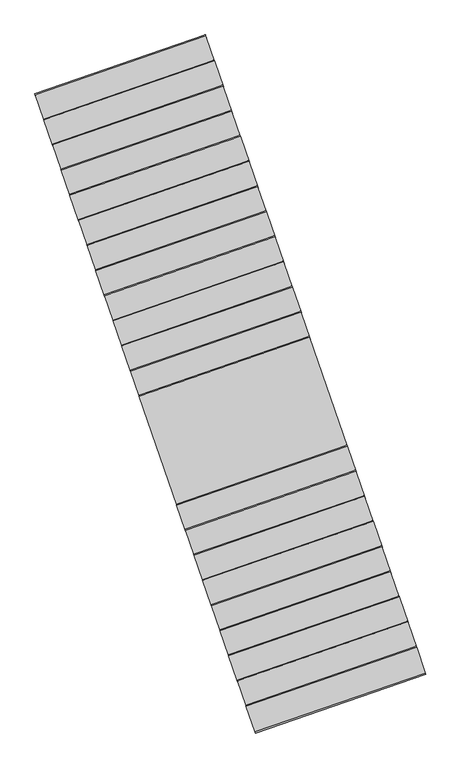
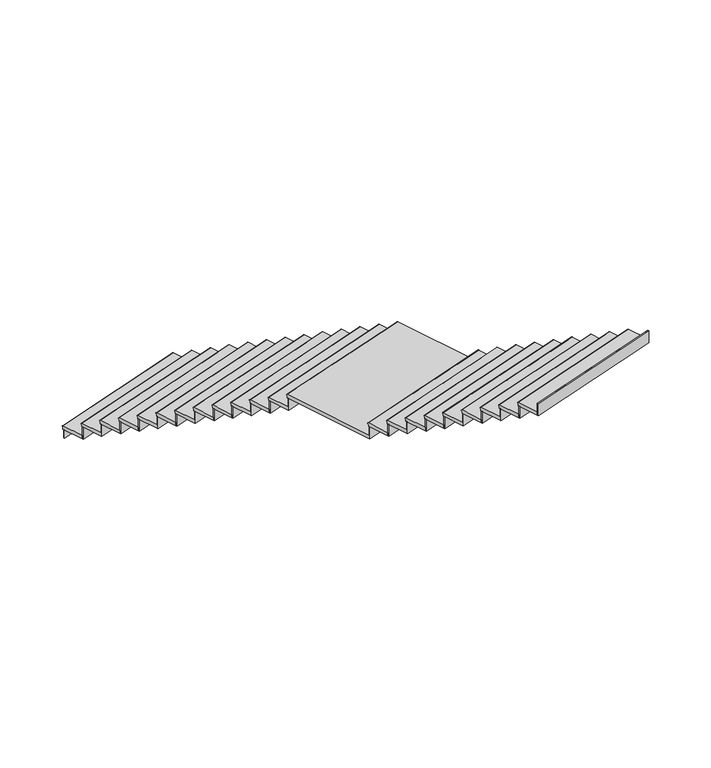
"""IFC4 building model written with IfcOpenShell, lengths in millimetres: stair flight geometry, Wood Steps with 50 mm Tread 20 mm Nosing 13 mm Riser."""

from ifc_helpers import new_model, si_unit, point, frame, frame_2d, origin, origin_with_axes, place, context, project, spatial, polyline, circle_curve, trimmed, segment, composite_curve, outline, extrude, source, transform, mapped, element, save


def stair_flight_a10bc733(model_context):
    return source(origin(), model_context, "Body", "SweptSolid", [
        extrude(outline(composite_curve([segment(polyline([(0.0, -310.0), (0.0, 0.0)]), True, "CONTINUOUS"), segment(trimmed(circle_curve(frame_2d((10.0, 0.0)), 10.0), [point((0.0, 0.0))], [point((20.0, 0.0))], False, "CARTESIAN"), True, "CONTINUOUS"), segment(polyline([(20.0, 0.0), (50.0, 0.0), (50.0, -310.0), (0.0, -310.0)]), True, "CONTINUOUS")], self_intersect=False)), frame((501160.9440466, 36722.4825066, 176.0869565), z_axis=(0.9452094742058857, 0.32646446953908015, 0.0), x_axis=(0.0, 0.0, -1.0)), (0.0, 0.0, 1.0), 2037.9328791),
        extrude(outline(polyline([(501168.2894971, 36701.2152934), (501164.2086913, 36713.0304118), (503090.4821564, 37378.3430882), (503094.5629622, 37366.5279697), (501168.2894971, 36701.2152934)])), origin_with_axes(), (0.0, 0.0, 1.0), 126.0869565),
        extrude(outline(polyline([(501266.228838, 36417.6524512), (501262.1480321, 36429.4675696), (503188.4214972, 37094.7802459), (503192.5023031, 37082.9651275), (501266.228838, 36417.6524512)])), frame((0.0, 0.0, 126.0869565), z_axis=(0.0, 0.0, 1.0), x_axis=(1.0, 0.0, 0.0)), (0.0, 0.0, 1.0), 176.0869565),
        extrude(outline(composite_curve([segment(polyline([(0.0, -310.0), (0.0, 0.0)]), True, "CONTINUOUS"), segment(trimmed(circle_curve(frame_2d((10.0, 0.0)), 10.0), [point((0.0, 0.0))], [point((20.0, 0.0))], False, "CARTESIAN"), True, "CONTINUOUS"), segment(polyline([(20.0, 0.0), (50.0, 0.0), (50.0, -310.0), (0.0, -310.0)]), True, "CONTINUOUS")], self_intersect=False)), frame((501258.8833874, 36438.9196643, 352.173913), z_axis=(0.9452094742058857, 0.32646446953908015, 0.0), x_axis=(0.0, 0.0, -1.0)), (0.0, 0.0, 1.0), 2037.9328791),
        extrude(outline(polyline([(501364.1681789, 36134.0896089), (501360.087373, 36145.9047273), (503286.3608381, 36811.2174036), (503290.441644, 36799.4022852), (501364.1681789, 36134.0896089)])), frame((0.0, 0.0, 302.173913), z_axis=(0.0, 0.0, 1.0), x_axis=(1.0, 0.0, 0.0)), (0.0, 0.0, 1.0), 176.0869565),
        extrude(outline(composite_curve([segment(polyline([(0.0, -310.0), (0.0, 0.0)]), True, "CONTINUOUS"), segment(trimmed(circle_curve(frame_2d((10.0, 0.0)), 10.0), [point((0.0, 0.0))], [point((20.0, 0.0))], False, "CARTESIAN"), True, "CONTINUOUS"), segment(polyline([(20.0, 0.0), (50.0, 0.0), (50.0, -310.0), (0.0, -310.0)]), True, "CONTINUOUS")], self_intersect=False)), frame((501356.8227283, 36155.3568221, 528.2608696), z_axis=(0.9452094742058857, 0.32646446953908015, 0.0), x_axis=(0.0, 0.0, -1.0)), (0.0, 0.0, 1.0), 2037.9328791),
        extrude(outline(polyline([(501462.1075197, 35850.5267666), (501458.0267139, 35862.3418851), (503384.300179, 36527.6545614), (503388.3809848, 36515.839443), (501462.1075197, 35850.5267666)])), frame((0.0, 0.0, 478.2608696), z_axis=(0.0, 0.0, 1.0), x_axis=(1.0, 0.0, 0.0)), (0.0, 0.0, 1.0), 176.0869565),
        extrude(outline(composite_curve([segment(polyline([(0.0, -310.0), (0.0, 0.0)]), True, "CONTINUOUS"), segment(trimmed(circle_curve(frame_2d((10.0, 0.0)), 10.0), [point((0.0, 0.0))], [point((20.0, 0.0))], False, "CARTESIAN"), True, "CONTINUOUS"), segment(polyline([(20.0, 0.0), (50.0, 0.0), (50.0, -310.0), (0.0, -310.0)]), True, "CONTINUOUS")], self_intersect=False)), frame((501454.7620692, 35871.7939798, 704.3478261), z_axis=(0.9452094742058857, 0.32646446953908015, 0.0), x_axis=(0.0, 0.0, -1.0)), (0.0, 0.0, 1.0), 2037.9328791),
        extrude(outline(polyline([(501560.0468606, 35566.9639244), (501555.9660547, 35578.7790428), (503482.2395198, 36244.0917191), (503486.3203257, 36232.2766007), (501560.0468606, 35566.9639244)])), frame((0.0, 0.0, 654.3478261), z_axis=(0.0, 0.0, 1.0), x_axis=(1.0, 0.0, 0.0)), (0.0, 0.0, 1.0), 176.0869565),
        extrude(outline(composite_curve([segment(polyline([(0.0, -310.0), (0.0, 0.0)]), True, "CONTINUOUS"), segment(trimmed(circle_curve(frame_2d((10.0, 0.0)), 10.0), [point((0.0, 0.0))], [point((20.0, 0.0))], False, "CARTESIAN"), True, "CONTINUOUS"), segment(polyline([(20.0, 0.0), (50.0, 0.0), (50.0, -310.0), (0.0, -310.0)]), True, "CONTINUOUS")], self_intersect=False)), frame((501552.70141, 35588.2311375, 880.4347826), z_axis=(0.9452094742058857, 0.32646446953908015, 0.0), x_axis=(0.0, 0.0, -1.0)), (0.0, 0.0, 1.0), 2037.9328791),
        extrude(outline(polyline([(501657.9862014, 35283.4010821), (501653.9053956, 35295.2162005), (503580.1788607, 35960.5288769), (503584.2596666, 35948.7137584), (501657.9862014, 35283.4010821)])), frame((0.0, 0.0, 830.4347826), z_axis=(0.0, 0.0, 1.0), x_axis=(1.0, 0.0, 0.0)), (0.0, 0.0, 1.0), 176.0869565),
        extrude(outline(composite_curve([segment(polyline([(0.0, -310.0), (0.0, 0.0)]), True, "CONTINUOUS"), segment(trimmed(circle_curve(frame_2d((10.0, 0.0)), 10.0), [point((0.0, 0.0))], [point((20.0, 0.0))], False, "CARTESIAN"), True, "CONTINUOUS"), segment(polyline([(20.0, 0.0), (50.0, 0.0), (50.0, -310.0), (0.0, -310.0)]), True, "CONTINUOUS")], self_intersect=False)), frame((501650.6407509, 35304.6682953, 1056.5217391), z_axis=(0.9452094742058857, 0.32646446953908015, 0.0), x_axis=(0.0, 0.0, -1.0)), (0.0, 0.0, 1.0), 2037.9328791),
        extrude(outline(polyline([(501755.9255423, 34999.8382398), (501751.8447364, 35011.6533583), (503678.1182015, 35676.9660346), (503682.1990074, 35665.1509162), (501755.9255423, 34999.8382398)])), frame((0.0, 0.0, 1006.5217391), z_axis=(0.0, 0.0, 1.0), x_axis=(1.0, 0.0, 0.0)), (0.0, 0.0, 1.0), 176.0869565),
        extrude(outline(composite_curve([segment(polyline([(0.0, -310.0), (0.0, 0.0)]), True, "CONTINUOUS"), segment(trimmed(circle_curve(frame_2d((10.0, 0.0)), 10.0), [point((0.0, 0.0))], [point((20.0, 0.0))], False, "CARTESIAN"), True, "CONTINUOUS"), segment(polyline([(20.0, 0.0), (50.0, 0.0), (50.0, -310.0), (0.0, -310.0)]), True, "CONTINUOUS")], self_intersect=False)), frame((501748.5800917, 35021.105453, 1232.6086957), z_axis=(0.9452094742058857, 0.32646446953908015, 0.0), x_axis=(0.0, 0.0, -1.0)), (0.0, 0.0, 1.0), 2037.9328791),
        extrude(outline(polyline([(501853.8648832, 34716.2753976), (501849.7840773, 34728.090516), (503776.0575424, 35393.4031923), (503780.1383483, 35381.5880739), (501853.8648832, 34716.2753976)])), frame((0.0, 0.0, 1182.6086957), z_axis=(0.0, 0.0, 1.0), x_axis=(1.0, 0.0, 0.0)), (0.0, 0.0, 1.0), 176.0869565),
        extrude(outline(composite_curve([segment(polyline([(0.0, -310.0000001), (0.0, 0.0)]), True, "CONTINUOUS"), segment(trimmed(circle_curve(frame_2d((10.0, 0.0)), 10.0), [point((0.0, 0.0))], [point((20.0, 0.0))], False, "CARTESIAN"), True, "CONTINUOUS"), segment(polyline([(20.0, 0.0), (50.0, 0.0), (50.0, -310.0000001), (0.0, -310.0000001)]), True, "CONTINUOUS")], self_intersect=False)), frame((501846.5194326, 34737.5426108, 1408.6956522), z_axis=(0.9452094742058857, 0.32646446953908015, 0.0), x_axis=(0.0, 0.0, -1.0)), (0.0, 0.0, 1.0), 2037.9328791),
        extrude(outline(polyline([(501951.804224, 34432.7125553), (501947.7234182, 34444.5276737), (503873.9968833, 35109.8403501), (503878.0776891, 35098.0252316), (501951.804224, 34432.7125553)])), frame((0.0, 0.0, 1358.6956522), z_axis=(0.0, 0.0, 1.0), x_axis=(1.0, 0.0, 0.0)), (0.0, 0.0, 1.0), 176.0869565),
        extrude(outline(composite_curve([segment(polyline([(0.0, -310.0), (0.0, 0.0)]), True, "CONTINUOUS"), segment(trimmed(circle_curve(frame_2d((10.0, 0.0)), 10.0), [point((0.0, 0.0))], [point((20.0, 0.0))], False, "CARTESIAN"), True, "CONTINUOUS"), segment(polyline([(20.0, 0.0), (50.0, 0.0), (50.0, -310.0), (0.0, -310.0)]), True, "CONTINUOUS")], self_intersect=False)), frame((501944.4587735, 34453.9797685, 1584.7826087), z_axis=(0.9452094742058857, 0.32646446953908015, 0.0), x_axis=(0.0, 0.0, -1.0)), (0.0, 0.0, 1.0), 2037.9328791),
        extrude(outline(polyline([(502049.7435649, 34149.1497131), (502045.662759, 34160.9648315), (503971.9362241, 34826.2775078), (503976.01703, 34814.4623894), (502049.7435649, 34149.1497131)])), frame((0.0, 0.0, 1534.7826087), z_axis=(0.0, 0.0, 1.0), x_axis=(1.0, 0.0, 0.0)), (0.0, 0.0, 1.0), 176.0869565),
        extrude(outline(composite_curve([segment(polyline([(0.0, -310.0), (0.0, 0.0)]), True, "CONTINUOUS"), segment(trimmed(circle_curve(frame_2d((10.0, 0.0)), 10.0), [point((0.0, 0.0))], [point((20.0, 0.0))], False, "CARTESIAN"), True, "CONTINUOUS"), segment(polyline([(20.0, 0.0), (50.0, 0.0), (50.0, -310.0), (0.0, -310.0)]), True, "CONTINUOUS")], self_intersect=False)), frame((502042.3981143, 34170.4169262, 1760.8695652), z_axis=(0.9452094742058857, 0.32646446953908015, 0.0), x_axis=(0.0, 0.0, -1.0)), (0.0, 0.0, 1.0), 2037.9328791),
        extrude(outline(polyline([(502147.6829058, 33865.5868708), (502143.6020999, 33877.4019892), (504069.875565, 34542.7146656), (504073.9563709, 34530.8995471), (502147.6829058, 33865.5868708)])), frame((0.0, 0.0, 1710.8695652), z_axis=(0.0, 0.0, 1.0), x_axis=(1.0, 0.0, 0.0)), (0.0, 0.0, 1.0), 176.0869565),
        extrude(outline(composite_curve([segment(polyline([(0.0, -310.0), (0.0, 0.0)]), True, "CONTINUOUS"), segment(trimmed(circle_curve(frame_2d((10.0, 0.0)), 10.0), [point((0.0, 0.0))], [point((20.0, 0.0))], False, "CARTESIAN"), True, "CONTINUOUS"), segment(polyline([(20.0, 0.0), (50.0, 0.0), (50.0, -310.0), (0.0, -310.0)]), True, "CONTINUOUS")], self_intersect=False)), frame((502140.3374552, 33886.854084, 1936.9565217), z_axis=(0.9452094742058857, 0.32646446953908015, 0.0), x_axis=(0.0, 0.0, -1.0)), (0.0, 0.0, 1.0), 2037.9328791),
        extrude(outline(polyline([(502245.6222466, 33582.0240285), (502241.5414407, 33593.839147), (504167.8149059, 34259.1518233), (504171.8957117, 34247.3367049), (502245.6222466, 33582.0240285)])), frame((0.0, 0.0, 1886.9565217), z_axis=(0.0, 0.0, 1.0), x_axis=(1.0, 0.0, 0.0)), (0.0, 0.0, 1.0), 176.0869565),
        extrude(outline(composite_curve([segment(polyline([(0.0, -310.0), (0.0, 0.0)]), True, "CONTINUOUS"), segment(trimmed(circle_curve(frame_2d((10.0, 0.0)), 10.0), [point((0.0, 0.0))], [point((20.0, 0.0))], False, "CARTESIAN"), True, "CONTINUOUS"), segment(polyline([(20.0, 0.0), (50.0, 0.0), (50.0, -310.0), (0.0, -310.0)]), True, "CONTINUOUS")], self_intersect=False)), frame((502238.276796, 33603.2912417, 2113.0434783), z_axis=(0.9452094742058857, 0.32646446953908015, 0.0), x_axis=(0.0, 0.0, -1.0)), (0.0, 0.0, 1.0), 2037.9328791),
        extrude(outline(polyline([(502343.5615875, 33298.4611863), (502339.4807816, 33310.2763047), (504265.7542467, 33975.588981), (504269.8350526, 33963.7738626), (502343.5615875, 33298.4611863)])), frame((0.0, 0.0, 2063.0434783), z_axis=(0.0, 0.0, 1.0), x_axis=(1.0, 0.0, 0.0)), (0.0, 0.0, 1.0), 176.0869565),
        extrude(outline(composite_curve([segment(polyline([(0.0, -1310.0), (0.0, 0.0)]), True, "CONTINUOUS"), segment(trimmed(circle_curve(frame_2d((10.0, 0.0)), 10.0), [point((0.0, 0.0))], [point((20.0, 0.0))], False, "CARTESIAN"), True, "CONTINUOUS"), segment(polyline([(20.0, 0.0), (50.0, 0.0), (50.0, -1310.0), (0.0, -1310.0)]), True, "CONTINUOUS")], self_intersect=False)), frame((502336.2161369, 33319.7283994, 2289.1304348), z_axis=(0.9452094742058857, 0.32646446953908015, 0.0), x_axis=(0.0, 0.0, -1.0)), (0.0, 0.0, 1.0), 2037.9328791),
        extrude(outline(polyline([(502767.9653979, 32069.6888698), (502763.884592, 32081.5039882), (504690.1580571, 32746.8166646), (504694.238863, 32735.0015461), (502767.9653979, 32069.6888698)])), frame((0.0, 0.0, 2239.1304348), z_axis=(0.0, 0.0, 1.0), x_axis=(1.0, 0.0, 0.0)), (0.0, 0.0, 1.0), 176.0869565),
        extrude(outline(composite_curve([segment(polyline([(0.0, -310.0), (0.0, 0.0)]), True, "CONTINUOUS"), segment(trimmed(circle_curve(frame_2d((10.0, 0.0)), 10.0), [point((0.0, 0.0))], [point((20.0, 0.0))], False, "CARTESIAN"), True, "CONTINUOUS"), segment(polyline([(20.0, 0.0), (50.0, 0.0), (50.0, -310.0), (0.0, -310.0)]), True, "CONTINUOUS")], self_intersect=False)), frame((502760.6199473, 32090.956083, 2465.2173913), z_axis=(0.9452094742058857, 0.32646446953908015, 0.0), x_axis=(0.0, 0.0, -1.0)), (0.0, 0.0, 1.0), 2037.9328791),
        extrude(outline(polyline([(502865.9047387, 31786.1260275), (502861.8239329, 31797.941146), (504788.097398, 32463.2538223), (504792.1782039, 32451.4387039), (502865.9047387, 31786.1260275)])), frame((0.0, 0.0, 2415.2173913), z_axis=(0.0, 0.0, 1.0), x_axis=(1.0, 0.0, 0.0)), (0.0, 0.0, 1.0), 176.0869565),
        extrude(outline(composite_curve([segment(polyline([(0.0, -310.0), (0.0, 0.0)]), True, "CONTINUOUS"), segment(trimmed(circle_curve(frame_2d((10.0, 0.0)), 10.0), [point((0.0, 0.0))], [point((20.0, 0.0))], False, "CARTESIAN"), True, "CONTINUOUS"), segment(polyline([(20.0, 0.0), (50.0, 0.0), (50.0, -310.0), (0.0, -310.0)]), True, "CONTINUOUS")], self_intersect=False)), frame((502858.5592882, 31807.3932407, 2641.3043478), z_axis=(0.9452094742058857, 0.32646446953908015, 0.0), x_axis=(0.0, 0.0, -1.0)), (0.0, 0.0, 1.0), 2037.9328791),
        extrude(outline(polyline([(502963.8440796, 31502.5631853), (502959.7632737, 31514.3783037), (504886.0367388, 32179.69098), (504890.1175447, 32167.8758616), (502963.8440796, 31502.5631853)])), frame((0.0, 0.0, 2591.3043478), z_axis=(0.0, 0.0, 1.0), x_axis=(1.0, 0.0, 0.0)), (0.0, 0.0, 1.0), 176.0869565),
        extrude(outline(composite_curve([segment(polyline([(0.0, -310.0000001), (0.0, 0.0)]), True, "CONTINUOUS"), segment(trimmed(circle_curve(frame_2d((10.0, 0.0)), 10.0), [point((0.0, 0.0))], [point((20.0, 0.0))], False, "CARTESIAN"), True, "CONTINUOUS"), segment(polyline([(20.0, 0.0), (50.0, 0.0), (50.0, -310.0000001), (0.0, -310.0000001)]), True, "CONTINUOUS")], self_intersect=False)), frame((502956.498629, 31523.8303985, 2817.3913043), z_axis=(0.9452094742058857, 0.32646446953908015, 0.0), x_axis=(0.0, 0.0, -1.0)), (0.0, 0.0, 1.0), 2037.9328791),
        extrude(outline(polyline([(503061.7834205, 31219.000343), (503057.7026146, 31230.8154614), (504983.9760797, 31896.1281378), (504988.0568856, 31884.3130193), (503061.7834205, 31219.000343)])), frame((0.0, 0.0, 2767.3913043), z_axis=(0.0, 0.0, 1.0), x_axis=(1.0, 0.0, 0.0)), (0.0, 0.0, 1.0), 176.0869565),
        extrude(outline(composite_curve([segment(polyline([(0.0, -310.0), (0.0, 0.0)]), True, "CONTINUOUS"), segment(trimmed(circle_curve(frame_2d((10.0, 0.0)), 10.0), [point((0.0, 0.0))], [point((20.0, 0.0))], False, "CARTESIAN"), True, "CONTINUOUS"), segment(polyline([(20.0, 0.0), (50.0, 0.0), (50.0, -310.0), (0.0, -310.0)]), True, "CONTINUOUS")], self_intersect=False)), frame((503054.4379699, 31240.2675562, 2993.4782609), z_axis=(0.9452094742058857, 0.32646446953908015, 0.0), x_axis=(0.0, 0.0, -1.0)), (0.0, 0.0, 1.0), 2037.9328791),
        extrude(outline(polyline([(503159.7227613, 30935.4375008), (503155.6419555, 30947.2526192), (505081.9154206, 31612.5652955), (505085.9962264, 31600.7501771), (503159.7227613, 30935.4375008)])), frame((0.0, 0.0, 2943.4782609), z_axis=(0.0, 0.0, 1.0), x_axis=(1.0, 0.0, 0.0)), (0.0, 0.0, 1.0), 176.0869565),
        extrude(outline(composite_curve([segment(polyline([(0.0, -310.0), (0.0, 0.0)]), True, "CONTINUOUS"), segment(trimmed(circle_curve(frame_2d((10.0, 0.0)), 10.0), [point((0.0, 0.0))], [point((20.0, 0.0))], False, "CARTESIAN"), True, "CONTINUOUS"), segment(polyline([(20.0, 0.0), (50.0, 0.0), (50.0, -310.0), (0.0, -310.0)]), True, "CONTINUOUS")], self_intersect=False)), frame((503152.3773108, 30956.7047139, 3169.5652174), z_axis=(0.9452094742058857, 0.32646446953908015, 0.0), x_axis=(0.0, 0.0, -1.0)), (0.0, 0.0, 1.0), 2037.9328791),
        extrude(outline(polyline([(503257.6621022, 30651.8746585), (503253.5812963, 30663.6897769), (505179.8547614, 31329.0024533), (505183.9355673, 31317.1873348), (503257.6621022, 30651.8746585)])), frame((0.0, 0.0, 3119.5652174), z_axis=(0.0, 0.0, 1.0), x_axis=(1.0, 0.0, 0.0)), (0.0, 0.0, 1.0), 176.0869565),
        extrude(outline(composite_curve([segment(polyline([(0.0, -310.0), (0.0, 0.0)]), True, "CONTINUOUS"), segment(trimmed(circle_curve(frame_2d((10.0, 0.0)), 10.0), [point((0.0, 0.0))], [point((20.0, 0.0))], False, "CARTESIAN"), True, "CONTINUOUS"), segment(polyline([(20.0, 0.0), (50.0, 0.0), (50.0, -310.0), (0.0, -310.0)]), True, "CONTINUOUS")], self_intersect=False)), frame((503250.3166516, 30673.1418717, 3345.6521739), z_axis=(0.9452094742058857, 0.32646446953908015, 0.0), x_axis=(0.0, 0.0, -1.0)), (0.0, 0.0, 1.0), 2037.9328791),
        extrude(outline(polyline([(503355.601443, 30368.3118162), (503351.5206372, 30380.1269347), (505277.7941023, 31045.439611), (505281.8749082, 31033.6244926), (503355.601443, 30368.3118162)])), frame((0.0, 0.0, 3295.6521739), z_axis=(0.0, 0.0, 1.0), x_axis=(1.0, 0.0, 0.0)), (0.0, 0.0, 1.0), 176.0869565),
        extrude(outline(composite_curve([segment(polyline([(0.0, -310.0), (0.0, 0.0)]), True, "CONTINUOUS"), segment(trimmed(circle_curve(frame_2d((10.0, 0.0)), 10.0), [point((0.0, 0.0))], [point((20.0, 0.0))], False, "CARTESIAN"), True, "CONTINUOUS"), segment(polyline([(20.0, 0.0), (50.0, 0.0), (50.0, -310.0), (0.0, -310.0)]), True, "CONTINUOUS")], self_intersect=False)), frame((503348.2559925, 30389.5790294, 3521.7391304), z_axis=(0.9452094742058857, 0.32646446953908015, 0.0), x_axis=(0.0, 0.0, -1.0)), (0.0, 0.0, 1.0), 2037.9328791),
        extrude(outline(polyline([(503453.5407839, 30084.748974), (503449.459978, 30096.5640924), (505375.7334432, 30761.8767687), (505379.814249, 30750.0616503), (503453.5407839, 30084.748974)])), frame((0.0, 0.0, 3471.7391304), z_axis=(0.0, 0.0, 1.0), x_axis=(1.0, 0.0, 0.0)), (0.0, 0.0, 1.0), 176.0869565),
        extrude(outline(composite_curve([segment(polyline([(0.0, -310.0), (0.0, 0.0)]), True, "CONTINUOUS"), segment(trimmed(circle_curve(frame_2d((10.0, 0.0)), 10.0), [point((0.0, 0.0))], [point((20.0, 0.0))], False, "CARTESIAN"), True, "CONTINUOUS"), segment(polyline([(20.0, 0.0), (50.0, 0.0), (50.0, -310.0), (0.0, -310.0)]), True, "CONTINUOUS")], self_intersect=False)), frame((503446.1953333, 30106.0161871, 3697.826087), z_axis=(0.9452094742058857, 0.32646446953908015, 0.0), x_axis=(0.0, 0.0, -1.0)), (0.0, 0.0, 1.0), 2037.9328791),
        extrude(outline(polyline([(503551.4801248, 29801.1861317), (503547.3993189, 29813.0012501), (505473.672784, 30478.3139265), (505477.7535899, 30466.498808), (503551.4801248, 29801.1861317)])), frame((0.0, 0.0, 3647.826087), z_axis=(0.0, 0.0, 1.0), x_axis=(1.0, 0.0, 0.0)), (0.0, 0.0, 1.0), 176.0869565),
        extrude(outline(polyline([(503649.4194656, 29517.6232894), (503645.3386598, 29529.4384079), (505571.6121249, 30194.7510842), (505575.6929307, 30182.9359658), (503649.4194656, 29517.6232894)])), frame((0.0, 0.0, 3823.9130435), z_axis=(0.0, 0.0, 1.0), x_axis=(1.0, 0.0, 0.0)), (0.0, 0.0, 1.0), 176.0869565),
        extrude(outline(composite_curve([segment(polyline([(0.0, -310.0), (0.0, 0.0)]), True, "CONTINUOUS"), segment(trimmed(circle_curve(frame_2d((10.0, 0.0)), 10.0), [point((0.0, 0.0))], [point((20.0, 0.0))], False, "CARTESIAN"), True, "CONTINUOUS"), segment(polyline([(20.0, 0.0), (50.0, 0.0), (50.0, -310.0), (0.0, -310.0)]), True, "CONTINUOUS")], self_intersect=False)), frame((503544.1346742, 29822.4533449, 3873.9130435), z_axis=(0.9452094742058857, 0.32646446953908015, 0.0), x_axis=(0.0, 0.0, -1.0)), (0.0, 0.0, 1.0), 2037.9328791),
    ])


if __name__ == "__main__":
    model = new_model("IFC4")
    model_context = context("Model", 3, world=origin())
    ifc_project = project(units=[si_unit("LENGTHUNIT", "METRE", prefix="MILLI")], contexts=[model_context])
    site = spatial("IfcSite", under=ifc_project)
    building = spatial("IfcBuilding", under=site)
    placement = place(None, origin())
    stair_flight_shape = stair_flight_a10bc733(model_context)
    element("IfcStairFlight", 1, ObjectType="Wood Steps with 50 mm Tread 20 mm Nosing 13 mm Riser", at=placement, inside=building, context=model_context, shape_type="MappedRepresentation", body=[
        mapped(stair_flight_shape, transform((0.0, 0.0, 0.0), x_axis=(1.0, 0.0, 0.0), y_axis=(0.0, 1.0, 0.0), z_axis=(0.0, 0.0, 1.0))),
    ])
    save(model, "model.ifc")
